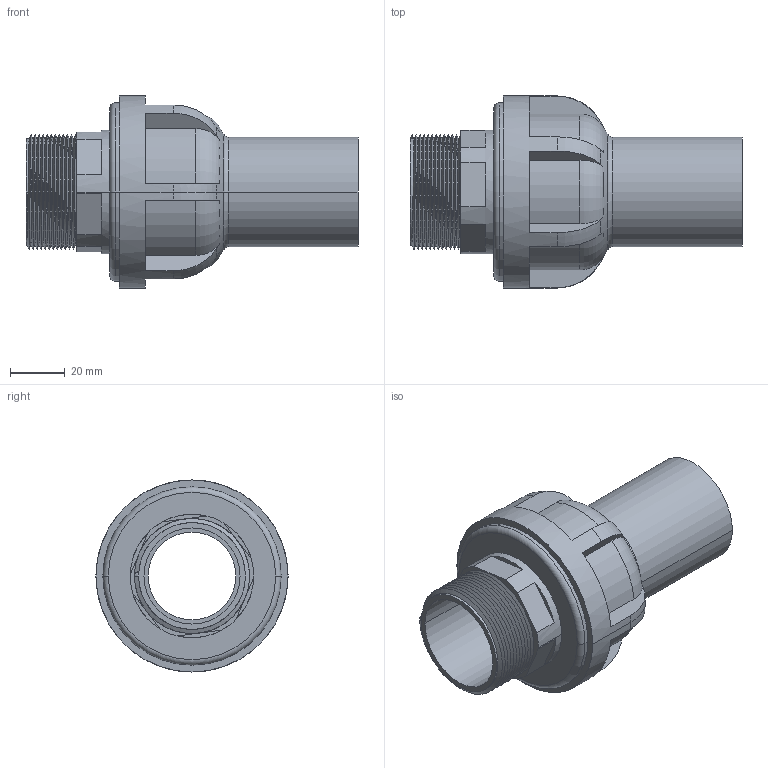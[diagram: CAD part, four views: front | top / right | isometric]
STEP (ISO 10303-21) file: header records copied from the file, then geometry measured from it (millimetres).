
FILE_DESCRIPTION (( 'STEP AP214' ), '1' );
FILE_NAME ('AX67134 - 40x1.25inch male.STEP', '2021-06-14T13:56:52', ( '' ), ( '' ), 'SwSTEP 2.0', 'SolidWorks 2019', '' );
FILE_SCHEMA (( 'AUTOMOTIVE_DESIGN' ));
Length unit declared in the file: millimetre
Products named in the file (1): AX67134 - 40x1.25inch male
Bounding box: 121 x 70 x 70 mm (x, y, z)
Volume: 119420.5 mm3; surface area: 40261.1 mm2
Topology: 1 solids, 1 shells, 105 faces, 283 edges, 182 vertices
Faces by surface type: cylinder 44, plane 37, torus 18, cone 4, bspline 2
Entity records: 6030 total; most frequent: CARTESIAN_POINT 2533, ORIENTED_EDGE 562, DIRECTION 488, EDGE_CURVE 281, AXIS2_PLACEMENT_3D 192, VERTEX_POINT 182, EDGE_LOOP 111, ADVANCED_FACE 105
